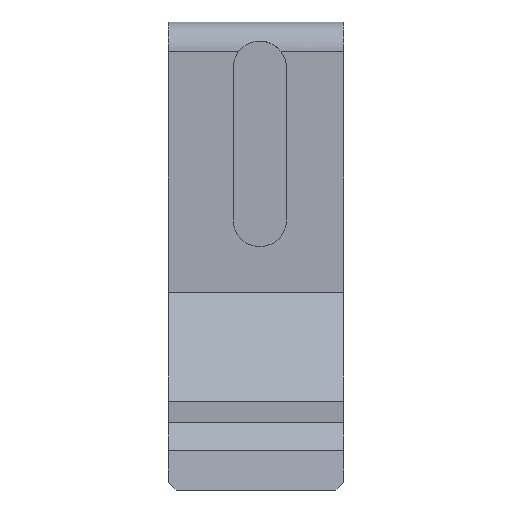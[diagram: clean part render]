
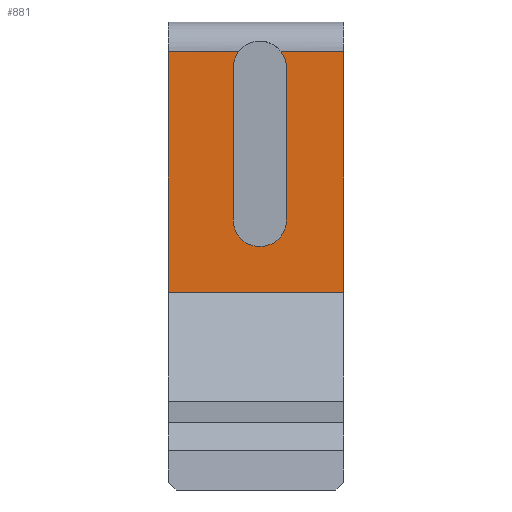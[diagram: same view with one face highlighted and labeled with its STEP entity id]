
A CAD part, left-side view. The second image highlights one B-rep face of the part: STEP entity #881.
In plain terms, the highlighted planar face has unit normal (-1, 0, 0).
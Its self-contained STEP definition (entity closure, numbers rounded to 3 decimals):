
#154 = VERTEX_POINT('',#155);
#155 = CARTESIAN_POINT('',(-8.,0.,-35.5));
#161 = EDGE_CURVE('',#162,#154,#164,.T.);
#162 = VERTEX_POINT('',#163);
#163 = CARTESIAN_POINT('',(-8.,0.,-3.9));
#164 = LINE('',#165,#166);
#165 = CARTESIAN_POINT('',(-8.,0.,0.));
#166 = VECTOR('',#167,1.);
#167 = DIRECTION('',(0.,0.,-1.));
#791 = EDGE_CURVE('',#154,#792,#794,.T.);
#792 = VERTEX_POINT('',#793);
#793 = CARTESIAN_POINT('',(-8.,-23.,-35.5));
#794 = LINE('',#795,#796);
#795 = CARTESIAN_POINT('',(-8.,0.,-35.5));
#796 = VECTOR('',#797,1.);
#797 = DIRECTION('',(0.,-1.,0.));
#817 = EDGE_CURVE('',#162,#818,#820,.T.);
#818 = VERTEX_POINT('',#819);
#819 = CARTESIAN_POINT('',(-8.,-9.2,-3.9));
#820 = LINE('',#821,#822);
#821 = CARTESIAN_POINT('',(-8.,0.,-3.9));
#822 = VECTOR('',#823,1.);
#823 = DIRECTION('',(0.,-1.,0.));
#826 = VERTEX_POINT('',#827);
#827 = CARTESIAN_POINT('',(-8.,-14.8,-3.9));
#862 = EDGE_CURVE('',#826,#863,#865,.T.);
#863 = VERTEX_POINT('',#864);
#864 = CARTESIAN_POINT('',(-8.,-23.,-3.9));
#865 = LINE('',#866,#867);
#866 = CARTESIAN_POINT('',(-8.,0.,-3.9));
#867 = VECTOR('',#868,1.);
#868 = DIRECTION('',(0.,-1.,0.));
#881 = ADVANCED_FACE('',(#882),#935,.F.);
#882 = FACE_BOUND('',#883,.F.);
#883 = EDGE_LOOP('',(#884,#885,#886,#895,#903,#912,#920,#927,#928,#934)
  );
#884 = ORIENTED_EDGE('',*,*,#161,.F.);
#885 = ORIENTED_EDGE('',*,*,#817,.T.);
#886 = ORIENTED_EDGE('',*,*,#887,.T.);
#887 = EDGE_CURVE('',#818,#888,#890,.T.);
#888 = VERTEX_POINT('',#889);
#889 = CARTESIAN_POINT('',(-8.,-8.5,-6.));
#890 = CIRCLE('',#891,3.5);
#891 = AXIS2_PLACEMENT_3D('',#892,#893,#894);
#892 = CARTESIAN_POINT('',(-8.,-12.,-6.));
#893 = DIRECTION('',(-1.,0.,0.));
#894 = DIRECTION('',(0.,0.,-1.));
#895 = ORIENTED_EDGE('',*,*,#896,.T.);
#896 = EDGE_CURVE('',#888,#897,#899,.T.);
#897 = VERTEX_POINT('',#898);
#898 = CARTESIAN_POINT('',(-8.,-8.5,-26.));
#899 = LINE('',#900,#901);
#900 = CARTESIAN_POINT('',(-8.,-8.5,-6.));
#901 = VECTOR('',#902,1.);
#902 = DIRECTION('',(0.,0.,-1.));
#903 = ORIENTED_EDGE('',*,*,#904,.T.);
#904 = EDGE_CURVE('',#897,#905,#907,.T.);
#905 = VERTEX_POINT('',#906);
#906 = CARTESIAN_POINT('',(-8.,-15.5,-26.));
#907 = CIRCLE('',#908,3.5);
#908 = AXIS2_PLACEMENT_3D('',#909,#910,#911);
#909 = CARTESIAN_POINT('',(-8.,-12.,-26.));
#910 = DIRECTION('',(-1.,0.,0.));
#911 = DIRECTION('',(0.,0.,-1.));
#912 = ORIENTED_EDGE('',*,*,#913,.F.);
#913 = EDGE_CURVE('',#914,#905,#916,.T.);
#914 = VERTEX_POINT('',#915);
#915 = CARTESIAN_POINT('',(-8.,-15.5,-6.));
#916 = LINE('',#917,#918);
#917 = CARTESIAN_POINT('',(-8.,-15.5,-6.));
#918 = VECTOR('',#919,1.);
#919 = DIRECTION('',(0.,0.,-1.));
#920 = ORIENTED_EDGE('',*,*,#921,.T.);
#921 = EDGE_CURVE('',#914,#826,#922,.T.);
#922 = CIRCLE('',#923,3.5);
#923 = AXIS2_PLACEMENT_3D('',#924,#925,#926);
#924 = CARTESIAN_POINT('',(-8.,-12.,-6.));
#925 = DIRECTION('',(-1.,0.,0.));
#926 = DIRECTION('',(0.,0.,-1.));
#927 = ORIENTED_EDGE('',*,*,#862,.T.);
#928 = ORIENTED_EDGE('',*,*,#929,.T.);
#929 = EDGE_CURVE('',#863,#792,#930,.T.);
#930 = LINE('',#931,#932);
#931 = CARTESIAN_POINT('',(-8.,-23.,0.));
#932 = VECTOR('',#933,1.);
#933 = DIRECTION('',(0.,0.,-1.));
#934 = ORIENTED_EDGE('',*,*,#791,.F.);
#935 = PLANE('',#936);
#936 = AXIS2_PLACEMENT_3D('',#937,#938,#939);
#937 = CARTESIAN_POINT('',(-8.,0.,0.));
#938 = DIRECTION('',(1.,0.,0.));
#939 = DIRECTION('',(0.,0.,-1.));
